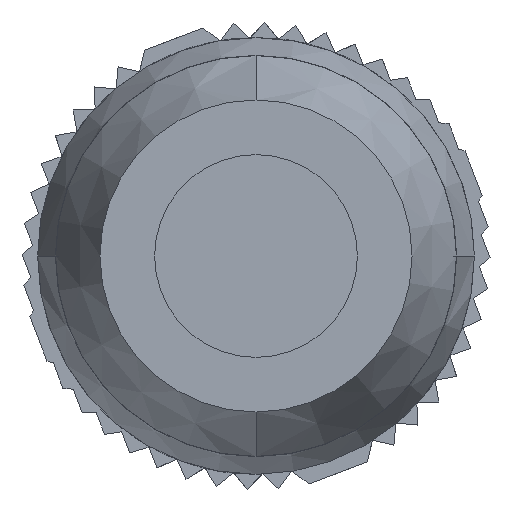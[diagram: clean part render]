
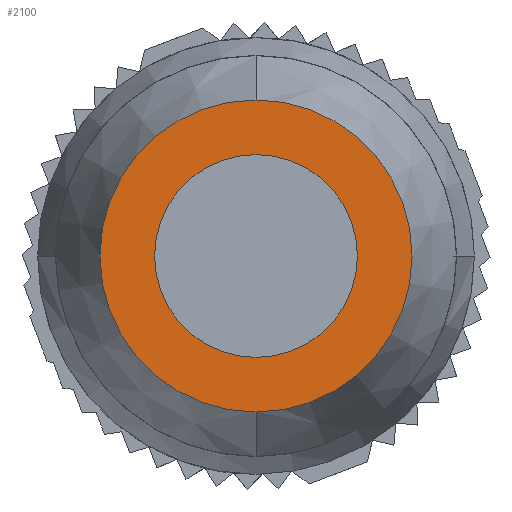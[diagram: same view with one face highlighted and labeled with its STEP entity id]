
A CAD part, left-side view. The second image highlights one B-rep face of the part: STEP entity #2100.
In plain terms, the highlighted planar face has unit normal (-1, 0, 0).
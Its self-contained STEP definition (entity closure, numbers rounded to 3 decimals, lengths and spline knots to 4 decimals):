
#1415 = CIRCLE ( 'NONE', #7078, 3.25 ) ;
#1594 = CARTESIAN_POINT ( 'NONE',  ( -11.9253, 0., 0. ) ) ;
#1744 = VERTEX_POINT ( 'NONE', #7779 ) ;
#2100 = ADVANCED_FACE ( 'NONE', ( #37913, #4284 ), #20003, .T. ) ;
#3087 = EDGE_LOOP ( 'NONE', ( #9813, #22687 ) ) ;
#3424 = DIRECTION ( 'NONE',  ( -1., 0., 0. ) ) ;
#3463 = AXIS2_PLACEMENT_3D ( 'NONE', #22658, #26766, #26043 ) ;
#4284 = FACE_BOUND ( 'NONE', #3087, .T. ) ;
#7011 = VERTEX_POINT ( 'NONE', #11532 ) ;
#7078 = AXIS2_PLACEMENT_3D ( 'NONE', #30552, #40841, #20732 ) ;
#7266 = EDGE_CURVE ( 'NONE', #42905, #15866, #43492, .T. ) ;
#7779 = CARTESIAN_POINT ( 'NONE',  ( -11.9253, 0., 5. ) ) ;
#8373 = ORIENTED_EDGE ( 'NONE', *, *, #32433, .T. ) ;
#8410 = AXIS2_PLACEMENT_3D ( 'NONE', #35628, #11690, #21969 ) ;
#9813 = ORIENTED_EDGE ( 'NONE', *, *, #7266, .F. ) ;
#10027 = DIRECTION ( 'NONE',  ( 0., 0., -1. ) ) ;
#11532 = CARTESIAN_POINT ( 'NONE',  ( -11.9253, 0., -5. ) ) ;
#11567 = DIRECTION ( 'NONE',  ( -1., 0., 0. ) ) ;
#11690 = DIRECTION ( 'NONE',  ( -1., 0., 0. ) ) ;
#12480 = CIRCLE ( 'NONE', #41364, 5. ) ;
#15866 = VERTEX_POINT ( 'NONE', #21834 ) ;
#17264 = AXIS2_PLACEMENT_3D ( 'NONE', #33243, #3424, #10027 ) ;
#19289 = EDGE_CURVE ( 'NONE', #7011, #1744, #12480, .T. ) ;
#20003 = PLANE ( 'NONE',  #3463 ) ;
#20732 = DIRECTION ( 'NONE',  ( 0., 0., -1. ) ) ;
#21612 = EDGE_CURVE ( 'NONE', #15866, #42905, #1415, .T. ) ;
#21834 = CARTESIAN_POINT ( 'NONE',  ( -11.9253, 0., 3.25 ) ) ;
#21969 = DIRECTION ( 'NONE',  ( 0., 0., -1. ) ) ;
#22658 = CARTESIAN_POINT ( 'NONE',  ( -11.9253, 0., 0. ) ) ;
#22687 = ORIENTED_EDGE ( 'NONE', *, *, #21612, .F. ) ;
#25511 = EDGE_LOOP ( 'NONE', ( #42559, #8373 ) ) ;
#26043 = DIRECTION ( 'NONE',  ( 0., -1., 0. ) ) ;
#26766 = DIRECTION ( 'NONE',  ( -1., 0., 0. ) ) ;
#30552 = CARTESIAN_POINT ( 'NONE',  ( -11.9253, 0., 0. ) ) ;
#32433 = EDGE_CURVE ( 'NONE', #1744, #7011, #38384, .T. ) ;
#33243 = CARTESIAN_POINT ( 'NONE',  ( -11.9253, 0., 0. ) ) ;
#35364 = DIRECTION ( 'NONE',  ( 0., 0., -1. ) ) ;
#35628 = CARTESIAN_POINT ( 'NONE',  ( -11.9253, 0., 0. ) ) ;
#37913 = FACE_OUTER_BOUND ( 'NONE', #25511, .T. ) ;
#38384 = CIRCLE ( 'NONE', #8410, 5. ) ;
#39715 = CARTESIAN_POINT ( 'NONE',  ( -11.9253, 0., -3.25 ) ) ;
#40841 = DIRECTION ( 'NONE',  ( -1., 0., 0. ) ) ;
#41364 = AXIS2_PLACEMENT_3D ( 'NONE', #1594, #11567, #35364 ) ;
#42559 = ORIENTED_EDGE ( 'NONE', *, *, #19289, .T. ) ;
#42905 = VERTEX_POINT ( 'NONE', #39715 ) ;
#43492 = CIRCLE ( 'NONE', #17264, 3.25 ) ;
